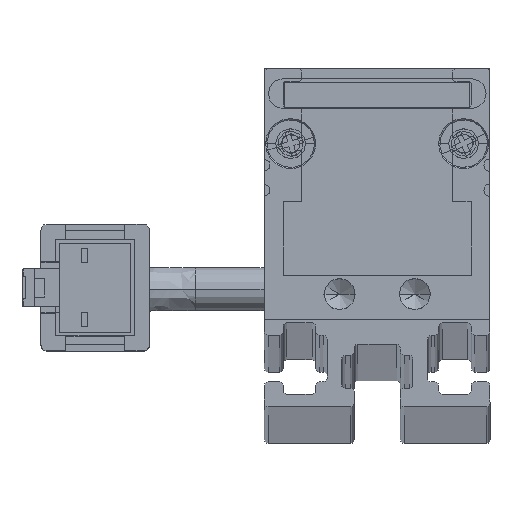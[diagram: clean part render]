
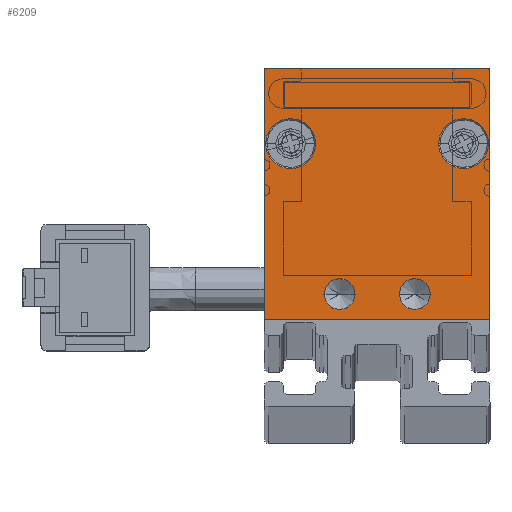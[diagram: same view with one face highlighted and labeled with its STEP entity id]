
A CAD part, top view. The second image highlights one B-rep face of the part: STEP entity #6209.
In plain terms, the highlighted planar face has unit normal (0, 0, 1) as drawn and (0, 0, -1) by its records, which use the part's own axes.
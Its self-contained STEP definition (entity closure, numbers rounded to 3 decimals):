
#97 = EDGE_CURVE ( 'NONE', #1193, #6551, #1076, .T. ) ;
#171 = DIRECTION ( 'NONE',  ( 1., 0., 0. ) ) ;
#184 = CARTESIAN_POINT ( 'NONE',  ( -8.9, 14., -2.5 ) ) ;
#202 = LINE ( 'NONE', #5109, #11821 ) ;
#219 = FACE_BOUND ( 'NONE', #12374, .T. ) ;
#223 = DIRECTION ( 'NONE',  ( 0., 0., -1. ) ) ;
#234 = ORIENTED_EDGE ( 'NONE', *, *, #8337, .F. ) ;
#236 = CARTESIAN_POINT ( 'NONE',  ( -9., 0., -2.5 ) ) ;
#293 = ORIENTED_EDGE ( 'NONE', *, *, #8488, .F. ) ;
#301 = DIRECTION ( 'NONE',  ( -1., 0., 0. ) ) ;
#413 = DIRECTION ( 'NONE',  ( -1., 0., 0. ) ) ;
#597 = CARTESIAN_POINT ( 'NONE',  ( -9., 0., -2.5 ) ) ;
#1076 = CIRCLE ( 'NONE', #4695, 1.25 ) ;
#1105 = CARTESIAN_POINT ( 'NONE',  ( -1.75, 2., -2.5 ) ) ;
#1193 = VERTEX_POINT ( 'NONE', #1105 ) ;
#1227 = VERTEX_POINT ( 'NONE', #6712 ) ;
#1369 = VECTOR ( 'NONE', #6079, 1000. ) ;
#1461 = CARTESIAN_POINT ( 'NONE',  ( -4.25, 2., -2.5 ) ) ;
#1555 = DIRECTION ( 'NONE',  ( -1., 0., 0. ) ) ;
#1593 = CARTESIAN_POINT ( 'NONE',  ( 9., 20., -2.5 ) ) ;
#1709 = CARTESIAN_POINT ( 'NONE',  ( 6.9, 14., -2.5 ) ) ;
#1744 = CIRCLE ( 'NONE', #7790, 2. ) ;
#1771 = EDGE_CURVE ( 'NONE', #6551, #1193, #2709, .T. ) ;
#1959 = EDGE_CURVE ( 'NONE', #5257, #2282, #7151, .T. ) ;
#1961 = AXIS2_PLACEMENT_3D ( 'NONE', #7904, #7080, #10805 ) ;
#1980 = DIRECTION ( 'NONE',  ( 0., 0., -1. ) ) ;
#2052 = EDGE_CURVE ( 'NONE', #6646, #2259, #7553, .T. ) ;
#2078 = DIRECTION ( 'NONE',  ( 0., -1., 0. ) ) ;
#2114 = AXIS2_PLACEMENT_3D ( 'NONE', #6084, #223, #5071 ) ;
#2163 = LINE ( 'NONE', #5955, #1369 ) ;
#2179 = LINE ( 'NONE', #236, #10882 ) ;
#2259 = VERTEX_POINT ( 'NONE', #8328 ) ;
#2282 = VERTEX_POINT ( 'NONE', #10415 ) ;
#2513 = AXIS2_PLACEMENT_3D ( 'NONE', #4493, #6518, #8473 ) ;
#2709 = CIRCLE ( 'NONE', #2513, 1.25 ) ;
#2746 = CARTESIAN_POINT ( 'NONE',  ( 1.75, 2., -2.5 ) ) ;
#2796 = DIRECTION ( 'NONE',  ( -1., 0., 0. ) ) ;
#2835 = ORIENTED_EDGE ( 'NONE', *, *, #1771, .F. ) ;
#3017 = AXIS2_PLACEMENT_3D ( 'NONE', #6146, #8142, #413 ) ;
#3138 = CARTESIAN_POINT ( 'NONE',  ( 4.9, 14., -2.5 ) ) ;
#3669 = ORIENTED_EDGE ( 'NONE', *, *, #4517, .F. ) ;
#4106 = FACE_OUTER_BOUND ( 'NONE', #10061, .T. ) ;
#4137 = EDGE_LOOP ( 'NONE', ( #293, #7290 ) ) ;
#4229 = PLANE ( 'NONE',  #1961 ) ;
#4410 = CIRCLE ( 'NONE', #11472, 1.25 ) ;
#4493 = CARTESIAN_POINT ( 'NONE',  ( -3., 2., -2.5 ) ) ;
#4517 = EDGE_CURVE ( 'NONE', #5002, #10083, #202, .T. ) ;
#4632 = EDGE_CURVE ( 'NONE', #1227, #10183, #6244, .T. ) ;
#4695 = AXIS2_PLACEMENT_3D ( 'NONE', #8942, #8741, #301 ) ;
#4728 = EDGE_LOOP ( 'NONE', ( #6135, #234 ) ) ;
#4829 = CIRCLE ( 'NONE', #3017, 2. ) ;
#5002 = VERTEX_POINT ( 'NONE', #11660 ) ;
#5034 = EDGE_CURVE ( 'NONE', #11908, #10773, #1744, .T. ) ;
#5038 = ORIENTED_EDGE ( 'NONE', *, *, #8920, .F. ) ;
#5071 = DIRECTION ( 'NONE',  ( -1., 0., 0. ) ) ;
#5109 = CARTESIAN_POINT ( 'NONE',  ( -9., 20., -2.5 ) ) ;
#5188 = FACE_BOUND ( 'NONE', #6287, .T. ) ;
#5257 = VERTEX_POINT ( 'NONE', #2746 ) ;
#5694 = CARTESIAN_POINT ( 'NONE',  ( 8.9, 14., -2.5 ) ) ;
#5955 = CARTESIAN_POINT ( 'NONE',  ( -9., 20., -2.5 ) ) ;
#6051 = CIRCLE ( 'NONE', #9074, 2. ) ;
#6079 = DIRECTION ( 'NONE',  ( -1., 0., 0. ) ) ;
#6084 = CARTESIAN_POINT ( 'NONE',  ( -6.9, 14., -2.5 ) ) ;
#6135 = ORIENTED_EDGE ( 'NONE', *, *, #2052, .F. ) ;
#6146 = CARTESIAN_POINT ( 'NONE',  ( -6.9, 14., -2.5 ) ) ;
#6209 = ADVANCED_FACE ( 'NONE', ( #9044, #8857, #5188, #219, #4106 ), #4229, .F. ) ;
#6213 = EDGE_CURVE ( 'NONE', #10183, #5002, #2163, .T. ) ;
#6244 = LINE ( 'NONE', #6369, #8585 ) ;
#6287 = EDGE_LOOP ( 'NONE', ( #8958, #8884 ) ) ;
#6369 = CARTESIAN_POINT ( 'NONE',  ( 9., 20., -2.5 ) ) ;
#6518 = DIRECTION ( 'NONE',  ( 0., 0., -1. ) ) ;
#6551 = VERTEX_POINT ( 'NONE', #1461 ) ;
#6564 = DIRECTION ( 'NONE',  ( -1., 0., 0. ) ) ;
#6592 = ORIENTED_EDGE ( 'NONE', *, *, #6213, .F. ) ;
#6646 = VERTEX_POINT ( 'NONE', #184 ) ;
#6712 = CARTESIAN_POINT ( 'NONE',  ( 9., 0., -2.5 ) ) ;
#6917 = DIRECTION ( 'NONE',  ( 0., 0., -1. ) ) ;
#7080 = DIRECTION ( 'NONE',  ( 0., 0., 1. ) ) ;
#7151 = CIRCLE ( 'NONE', #11579, 1.25 ) ;
#7290 = ORIENTED_EDGE ( 'NONE', *, *, #5034, .F. ) ;
#7553 = CIRCLE ( 'NONE', #2114, 2. ) ;
#7790 = AXIS2_PLACEMENT_3D ( 'NONE', #9254, #9314, #1555 ) ;
#7904 = CARTESIAN_POINT ( 'NONE',  ( 0., 0., -2.5 ) ) ;
#8142 = DIRECTION ( 'NONE',  ( 0., 0., -1. ) ) ;
#8274 = ORIENTED_EDGE ( 'NONE', *, *, #97, .F. ) ;
#8328 = CARTESIAN_POINT ( 'NONE',  ( -4.9, 14., -2.5 ) ) ;
#8337 = EDGE_CURVE ( 'NONE', #2259, #6646, #4829, .T. ) ;
#8473 = DIRECTION ( 'NONE',  ( -1., 0., 0. ) ) ;
#8488 = EDGE_CURVE ( 'NONE', #10773, #11908, #6051, .T. ) ;
#8585 = VECTOR ( 'NONE', #12107, 1000. ) ;
#8741 = DIRECTION ( 'NONE',  ( 0., 0., -1. ) ) ;
#8857 = FACE_BOUND ( 'NONE', #4728, .T. ) ;
#8884 = ORIENTED_EDGE ( 'NONE', *, *, #10054, .F. ) ;
#8920 = EDGE_CURVE ( 'NONE', #10083, #1227, #2179, .T. ) ;
#8942 = CARTESIAN_POINT ( 'NONE',  ( -3., 2., -2.5 ) ) ;
#8943 = CARTESIAN_POINT ( 'NONE',  ( 3., 2., -2.5 ) ) ;
#8958 = ORIENTED_EDGE ( 'NONE', *, *, #1959, .F. ) ;
#9044 = FACE_BOUND ( 'NONE', #4137, .T. ) ;
#9074 = AXIS2_PLACEMENT_3D ( 'NONE', #1709, #11236, #6564 ) ;
#9254 = CARTESIAN_POINT ( 'NONE',  ( 6.9, 14., -2.5 ) ) ;
#9314 = DIRECTION ( 'NONE',  ( 0., 0., -1. ) ) ;
#10054 = EDGE_CURVE ( 'NONE', #2282, #5257, #4410, .T. ) ;
#10061 = EDGE_LOOP ( 'NONE', ( #3669, #6592, #10402, #5038 ) ) ;
#10083 = VERTEX_POINT ( 'NONE', #597 ) ;
#10183 = VERTEX_POINT ( 'NONE', #1593 ) ;
#10402 = ORIENTED_EDGE ( 'NONE', *, *, #4632, .F. ) ;
#10415 = CARTESIAN_POINT ( 'NONE',  ( 4.25, 2., -2.5 ) ) ;
#10773 = VERTEX_POINT ( 'NONE', #3138 ) ;
#10805 = DIRECTION ( 'NONE',  ( 1., 0., 0. ) ) ;
#10882 = VECTOR ( 'NONE', #171, 1000. ) ;
#11236 = DIRECTION ( 'NONE',  ( 0., 0., -1. ) ) ;
#11472 = AXIS2_PLACEMENT_3D ( 'NONE', #8943, #6917, #11781 ) ;
#11499 = CARTESIAN_POINT ( 'NONE',  ( 3., 2., -2.5 ) ) ;
#11579 = AXIS2_PLACEMENT_3D ( 'NONE', #11499, #1980, #2796 ) ;
#11660 = CARTESIAN_POINT ( 'NONE',  ( -9., 20., -2.5 ) ) ;
#11781 = DIRECTION ( 'NONE',  ( -1., 0., 0. ) ) ;
#11821 = VECTOR ( 'NONE', #2078, 1000. ) ;
#11908 = VERTEX_POINT ( 'NONE', #5694 ) ;
#12107 = DIRECTION ( 'NONE',  ( 0., 1., 0. ) ) ;
#12374 = EDGE_LOOP ( 'NONE', ( #2835, #8274 ) ) ;
